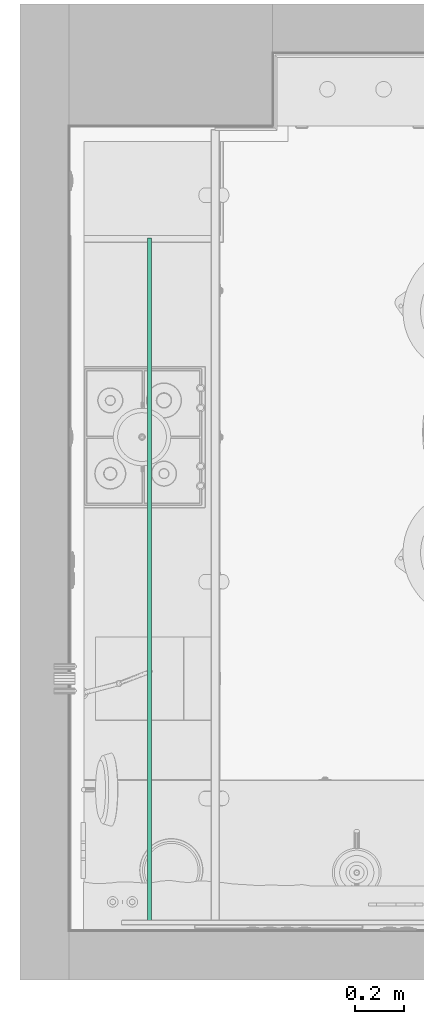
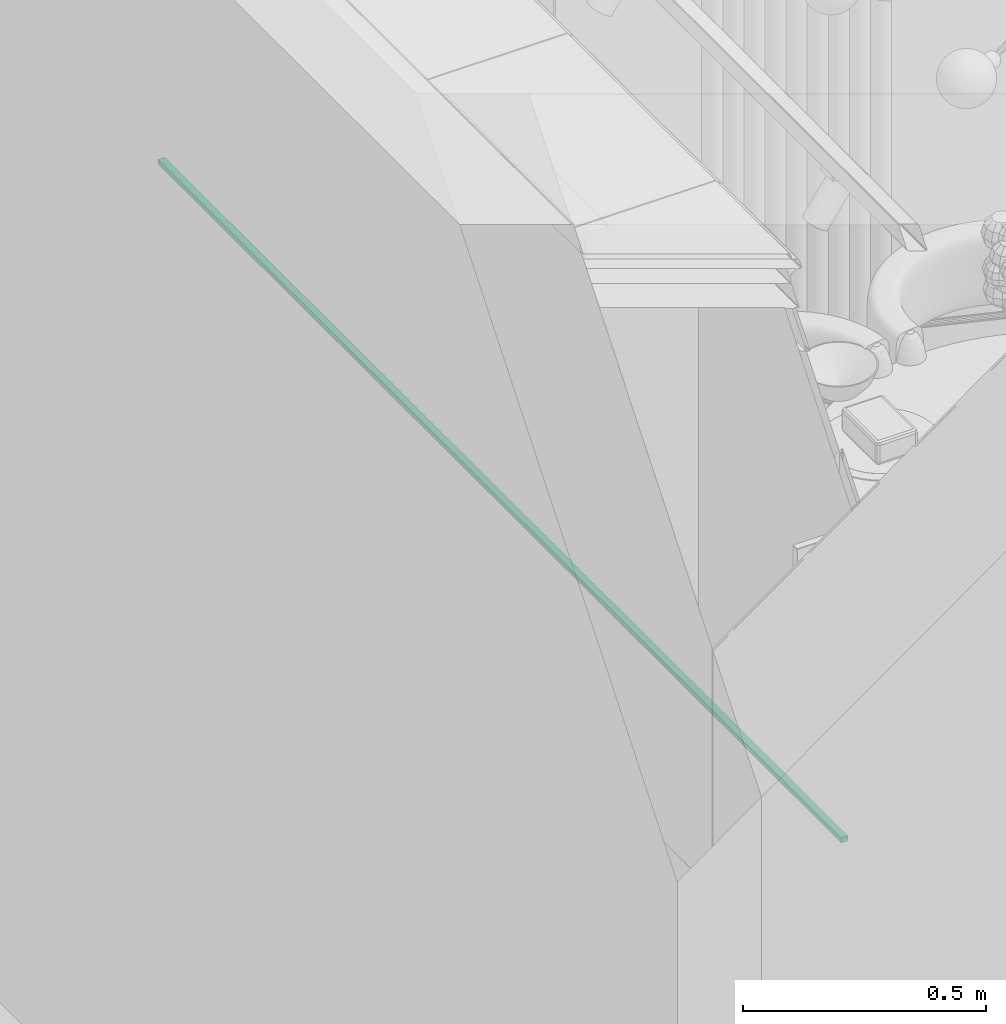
# One storey, part 4 of 11: 1 light fixture.
"""IFC4 building model written with IfcOpenShell, lengths in millimetres."""

from ifc_helpers import new_model, si_unit, frame, origin_with_axes, place, context, subcontext, project, spatial, triangles, material, constituent, constituent_set, element, save


model = new_model("IFC4")

# Units and contexts
model_context = context("Model", 3, precision=0.01, world=origin_with_axes())
body_context = subcontext(model_context, "Body", "Model", "MODEL_VIEW")
ifc_project = project(units=[si_unit("LENGTHUNIT", "METRE", prefix="MILLI"), si_unit("AREAUNIT", "SQUARE_METRE"), si_unit("VOLUMEUNIT", "CUBIC_METRE"), si_unit("PLANEANGLEUNIT", "RADIAN")], contexts=[model_context])

# Site, building, storey
site_placement = place(None, origin_with_axes())
site = spatial("IfcSite", under=ifc_project, at=site_placement, Name="Участок", CompositionType="ELEMENT")
building_placement = place(site_placement, origin_with_axes())
building = spatial("IfcBuilding", under=site, at=building_placement, Name="Жилой дом", CompositionType="ELEMENT")
storey_placement = place(building_placement, origin_with_axes())
storey = spatial("IfcBuildingStorey", under=building, at=storey_placement, Name="Квартира ±0,000", CompositionType="ELEMENT", Elevation=0.0)

# Light fixture
ifc_material_1 = material(Name="Нержавеющая сталь")
ifc_constituent_1 = constituent(ifc_material_1)
ifc_material_2 = material(Name="Светодиодная лента (свечение)")
ifc_constituent_2 = constituent(ifc_material_2)
ifc_constituent_set = constituent_set(constituents=[ifc_constituent_1, ifc_constituent_2], Name="Нержавеющая сталь + Светодиодная лента (свечение)")
light_fixture_placement = place(storey_placement, frame((322.0, 30.0, 1667.0)))
element("IfcLightFixture", 1, at=light_fixture_placement, inside=storey, material=ifc_constituent_set, Name="Светодиодная лента (1В)", PredefinedType="DIRECTIONSOURCE", context=body_context, shape_type="Tessellation", body=[
    triangles([(16.0, 0.0, 1.0), (16.0, 2810.0, 1.0), (16.0, 2810.0, 13.0), (16.0, 0.0, 13.0), (16.0, 2810.0, 1.0), (0.0, 2810.0, 1.0), (0.0, 2810.0, 13.0), (16.0, 2810.0, 13.0), (0.0, 2810.0, 1.0), (0.0, 0.0, 1.0), (0.0, 0.0, 13.0), (0.0, 2810.0, 13.0), (0.0, 0.0, 1.0), (16.0, 0.0, 1.0), (16.0, 0.0, 13.0), (0.0, 0.0, 13.0), (0.0, 0.0, 13.0), (16.0, 0.0, 13.0), (16.0, 2810.0, 13.0), (16.0, 2810.0, 13.0), (0.0, 2810.0, 13.0), (0.0, 0.0, 13.0), (16.0, 2810.0, 1.0), (16.0, 0.0, 1.0), (0.0, 0.0, 1.0), (0.0, 0.0, 1.0), (0.0, 2810.0, 1.0), (16.0, 2810.0, 1.0)], [[1, 2, 3], [1, 3, 4], [5, 6, 7], [5, 7, 8], [9, 10, 11], [9, 11, 12], [13, 14, 15], [13, 15, 16], [17, 18, 19], [20, 21, 22], [23, 24, 25], [26, 27, 28]]),
    triangles([(13.0, 0.0, 0.0), (13.0, 2810.0, 0.0), (13.0, 2810.0, 1.0), (13.0, 0.0, 1.0), (13.0, 2810.0, 0.0), (3.0, 2810.0, 0.0), (3.0, 2810.0, 1.0), (13.0, 2810.0, 1.0), (3.0, 2810.0, 0.0), (3.0, 0.0, 0.0), (3.0, 0.0, 1.0), (3.0, 2810.0, 1.0), (3.0, 0.0, 0.0), (13.0, 0.0, 0.0), (13.0, 0.0, 1.0), (3.0, 0.0, 1.0), (3.0, 0.0, 1.0), (13.0, 0.0, 1.0), (13.0, 2810.0, 1.0), (13.0, 2810.0, 1.0), (3.0, 2810.0, 1.0), (3.0, 0.0, 1.0), (13.0, 2810.0, 0.0), (13.0, 0.0, 0.0), (3.0, 0.0, 0.0), (3.0, 0.0, 0.0), (3.0, 2810.0, 0.0), (13.0, 2810.0, 0.0)], [[1, 2, 3], [1, 3, 4], [5, 6, 7], [5, 7, 8], [9, 10, 11], [9, 11, 12], [13, 14, 15], [13, 15, 16], [17, 18, 19], [20, 21, 22], [23, 24, 25], [26, 27, 28]]),
])

save(model, "model.ifc")
